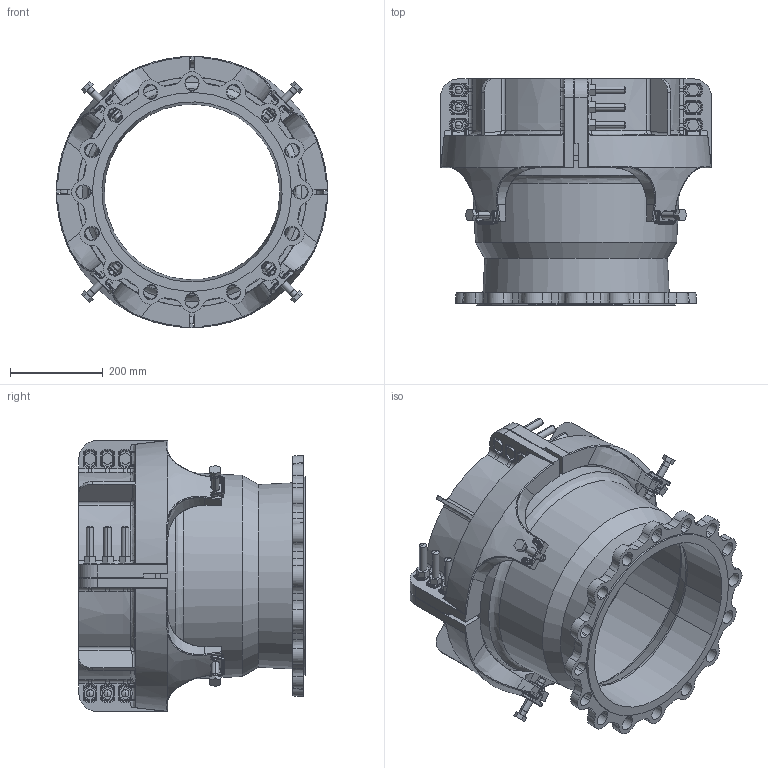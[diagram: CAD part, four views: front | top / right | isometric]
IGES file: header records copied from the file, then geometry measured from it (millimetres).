
Start section:  PTC IGES file: 13497_3_sw0001.igs
Global section: file name: 13497_3_sw0001.igs; native system: Pro/ENGINEER by Parametric Technology Corporation; preprocessor: 2006020; author: mfairey; organization: Unknown; date: 170505.075407; units: millimetre
Bounding box: 584.91 x 488 x 584.91 mm (x, y, z)
Surface area: 2813845.5 mm2 (no closed solid volume)
Topology: 0 solids, 0 shells, 2090 faces, 10208 edges, 10176 vertices
Faces by surface type: revolution 1226, bspline 864
